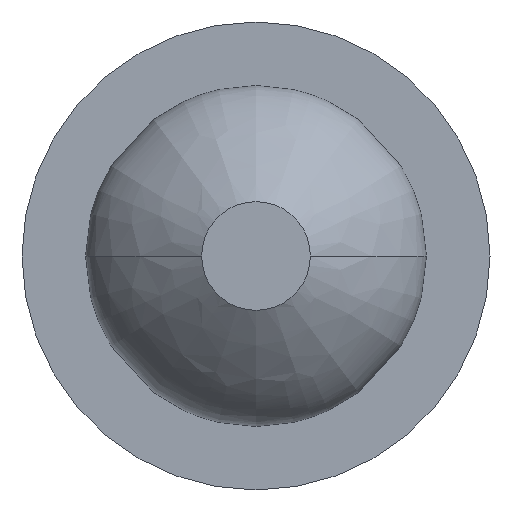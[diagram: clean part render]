
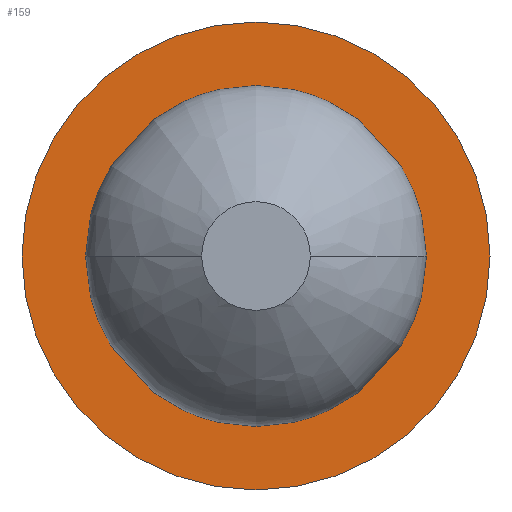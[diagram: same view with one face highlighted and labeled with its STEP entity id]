
A CAD part, front view. The second image highlights one B-rep face of the part: STEP entity #159.
In plain terms, the highlighted planar face has unit normal (0, -1, 0).
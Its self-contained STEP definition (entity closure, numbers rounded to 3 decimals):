
#9 = DIRECTION ( 'NONE',  ( 0., -1., 0. ) ) ;
#68 = VERTEX_POINT ( 'NONE', #1038 ) ;
#106 = AXIS2_PLACEMENT_3D ( 'NONE', #132, #420, #1603 ) ;
#132 = CARTESIAN_POINT ( 'NONE',  ( 831.734, 485.73, 0. ) ) ;
#138 = DIRECTION ( 'NONE',  ( 0., 0., -1. ) ) ;
#159 = ADVANCED_FACE ( 'NONE', ( #1328, #1726 ), #1441, .T. ) ;
#172 = ORIENTED_EDGE ( 'NONE', *, *, #959, .T. ) ;
#254 = VERTEX_POINT ( 'NONE', #1017 ) ;
#275 = AXIS2_PLACEMENT_3D ( 'NONE', #1436, #1172, #1311 ) ;
#307 = AXIS2_PLACEMENT_3D ( 'NONE', #812, #9, #947 ) ;
#375 = VERTEX_POINT ( 'NONE', #501 ) ;
#383 = VERTEX_POINT ( 'NONE', #552 ) ;
#420 = DIRECTION ( 'NONE',  ( 0., -1., 0. ) ) ;
#442 = CIRCLE ( 'NONE', #1572, 15.448 ) ;
#464 = ORIENTED_EDGE ( 'NONE', *, *, #1621, .F. ) ;
#465 = CIRCLE ( 'NONE', #307, 220.218 ) ;
#501 = CARTESIAN_POINT ( 'NONE',  ( 831.734, 485.73, 220.218 ) ) ;
#552 = CARTESIAN_POINT ( 'NONE',  ( 831.734, 485.73, -15.448 ) ) ;
#613 = ORIENTED_EDGE ( 'NONE', *, *, #857, .T. ) ;
#675 = EDGE_LOOP ( 'NONE', ( #464, #842 ) ) ;
#677 = CARTESIAN_POINT ( 'NONE',  ( 831.734, 485.73, 0. ) ) ;
#812 = CARTESIAN_POINT ( 'NONE',  ( 831.734, 485.73, 0. ) ) ;
#842 = ORIENTED_EDGE ( 'NONE', *, *, #934, .F. ) ;
#857 = EDGE_CURVE ( 'NONE', #375, #68, #465, .T. ) ;
#918 = DIRECTION ( 'NONE',  ( 0., -1., 0. ) ) ;
#934 = EDGE_CURVE ( 'NONE', #254, #383, #442, .T. ) ;
#947 = DIRECTION ( 'NONE',  ( 0., 0., -1. ) ) ;
#958 = DIRECTION ( 'NONE',  ( 0., -1., 0. ) ) ;
#959 = EDGE_CURVE ( 'NONE', #68, #375, #1429, .T. ) ;
#969 = EDGE_LOOP ( 'NONE', ( #172, #613 ) ) ;
#1017 = CARTESIAN_POINT ( 'NONE',  ( 831.734, 485.73, 15.448 ) ) ;
#1038 = CARTESIAN_POINT ( 'NONE',  ( 831.734, 485.73, -220.218 ) ) ;
#1172 = DIRECTION ( 'NONE',  ( 0., -1., 0. ) ) ;
#1311 = DIRECTION ( 'NONE',  ( 0., 0., -1. ) ) ;
#1328 = FACE_OUTER_BOUND ( 'NONE', #969, .T. ) ;
#1429 = CIRCLE ( 'NONE', #106, 220.218 ) ;
#1436 = CARTESIAN_POINT ( 'NONE',  ( 826.286, 485.73, 0. ) ) ;
#1441 = PLANE ( 'NONE',  #275 ) ;
#1454 = AXIS2_PLACEMENT_3D ( 'NONE', #1582, #918, #1624 ) ;
#1572 = AXIS2_PLACEMENT_3D ( 'NONE', #677, #958, #138 ) ;
#1582 = CARTESIAN_POINT ( 'NONE',  ( 831.734, 485.73, 0. ) ) ;
#1603 = DIRECTION ( 'NONE',  ( 0., 0., -1. ) ) ;
#1621 = EDGE_CURVE ( 'NONE', #383, #254, #1679, .T. ) ;
#1624 = DIRECTION ( 'NONE',  ( 0., 0., -1. ) ) ;
#1679 = CIRCLE ( 'NONE', #1454, 15.448 ) ;
#1726 = FACE_BOUND ( 'NONE', #675, .T. ) ;
